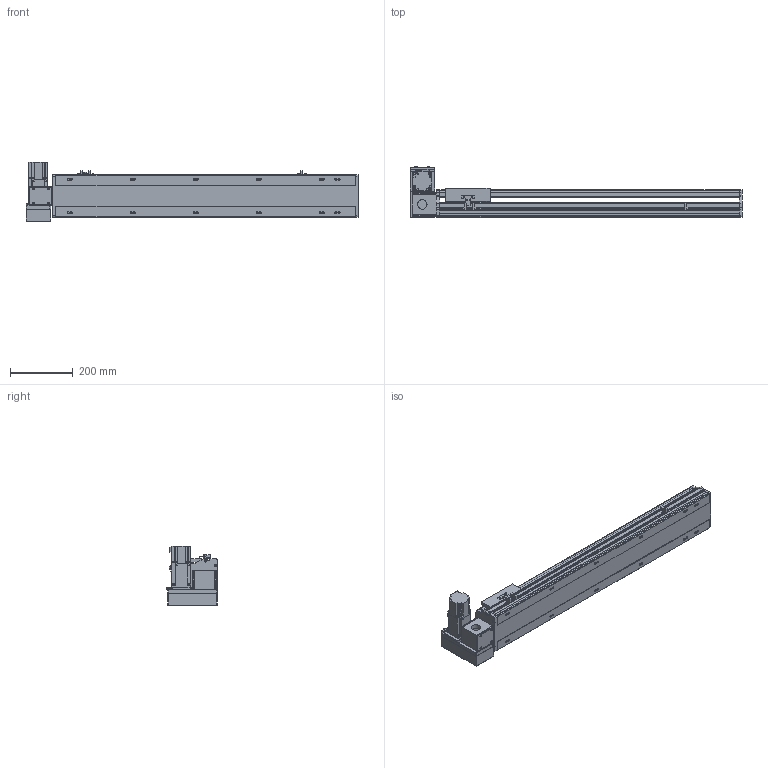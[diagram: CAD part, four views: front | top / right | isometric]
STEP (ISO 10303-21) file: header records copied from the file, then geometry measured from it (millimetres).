
FILE_DESCRIPTION( ( 'STEP AP214' ), '1' );
FILE_NAME( 'x:/temp/worker_6/temp/exporttempdir_5396_124_z4T8F/format_0/PBS140S-P40-S700-LU-T40-C1-N(0).stp', '2022-06-09T00:33:47', ( 'License CC BY-ND 4.0' ), ( 'CADENAS' ), ' ', 'PARTsolutions', ' ' );
FILE_SCHEMA( ( 'AUTOMOTIVE_DESIGN { 1 0 10303 214 1 1 1 1 }' ) );
Length unit declared in the file: millimetre
Products named in the file (7): PBS140S-P40-S700-LU-T40-C1-N(0); _PBS140S-S700()_body; _PBS140ST-LU_motors; _T40-p1; _PBS140S_sliser; _PBS140S_plant; _PBS140S_sensor
Assembly tree (8 placements, depth 2):
  PBS140S-P40-S700-LU-T40-C1-N(0)
    _PBS140S-S700()_body
    _PBS140ST-LU_motors
    _T40-p1
    _PBS140S_sliser
    _PBS140S_plant
    _PBS140S_sensor  x3
Bounding box: 1054 x 162.5 x 189.7 mm (x, y, z)
Volume: 5671798.2 mm3; surface area: 996180.9 mm2
Topology: 8 solids, 8 shells, 1067 faces, 2831 edges, 1853 vertices
Faces by surface type: plane 690, cylinder 329, cone 38, sphere 8, torus 2
Full cylindrical faces by diameter (mm): 3.242 x4, 4 x2, 4.134 x4, 4.4 x8, 4.5 x2, 4.8 x4, 4.917 x20, 5.5 x7, 6 x2, 7 x14, 7.5 x8, 8 x12, 8.5 x4, 10.5 x12, 14 x1, 30 x2, 50 x2
Entity records: 39052 total; most frequent: CARTESIAN_POINT 6070, DIRECTION 5208, ORIENTED_EDGE 4942, EDGE_CURVE 2471, AXIS2_PLACEMENT_3D 1799, VERTEX_POINT 1705, LINE 1610, VECTOR 1610
